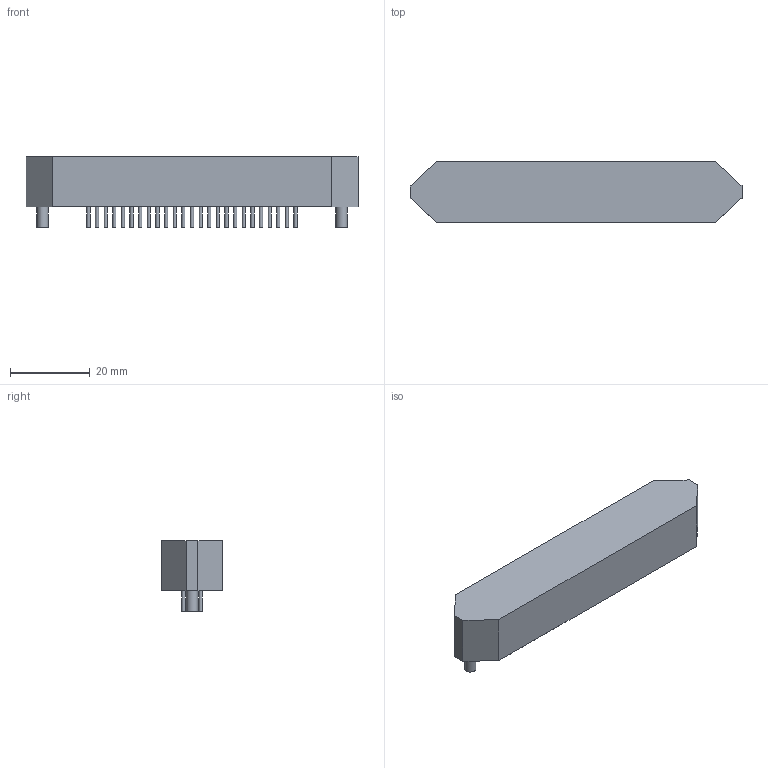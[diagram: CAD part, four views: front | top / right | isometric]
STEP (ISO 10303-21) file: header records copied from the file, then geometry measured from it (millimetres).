
FILE_DESCRIPTION(('FreeCAD Model'),'2;1');
FILE_NAME('/var/www/3D/0T/673353.1.2.stp','2020-04-09T05:33:39',( 'Author'),(''),'Open CASCADE STEP processor 6.9','FreeCAD','Unknown' );
FILE_SCHEMA(('AUTOMOTIVE_DESIGN { 1 0 10303 214 1 1 1 1 }'));
Length unit declared in the file: millimetre
Products named in the file (3): ASSEMBLY; Body; Leads
Assembly tree (53 placements, depth 2):
  ASSEMBLY
    Body
    Leads  x52
Bounding box: 83.1 x 15.3 x 17.65 mm (x, y, z)
Surface area: 46680.8 mm2
Topology: 2705 solids, 2705 shells, 8122 faces, 8136 edges, 5424 vertices
Faces by surface type: plane 5418, cylinder 2704
Full cylindrical faces by diameter (mm): 0.8 x2600, 2.85 x104
Entity records: 6319 total; most frequent: DIRECTION 1084, CARTESIAN_POINT 880, ORIENTED_EDGE 360, PCURVE 360, DEFINITIONAL_REPRESENTATION 360, LINE 332, VECTOR 332, AXIS2_PLACEMENT_3D 324
